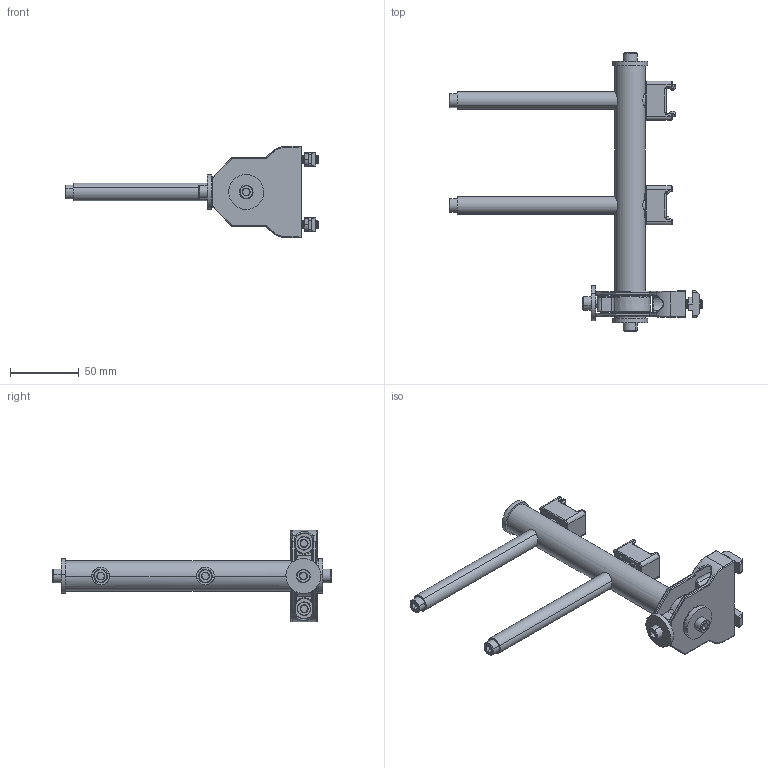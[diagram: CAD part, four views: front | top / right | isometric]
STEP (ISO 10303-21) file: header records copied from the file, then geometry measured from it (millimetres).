
FILE_DESCRIPTION((''),'2;1');
FILE_NAME('206186-03_ASM','2016-08-29T',('adam.dellomodarme'),(''),'PRO/ENGINEER BY PARAMETRIC TECHNOLOGY CORPORATION, 2012420','PRO/ENGINEER BY PARAMETRIC TECHNOLOGY CORPORATION, 2012420','');
FILE_SCHEMA(('CONFIG_CONTROL_DESIGN'));
Length unit declared in the file: inch
Products named in the file (18): 911-710_911-710_1; 990601M_1; 206692_1; 807-920_1; 206685_1; 206397_206397_1; 9206XXM_920616M_1; 807-2859_91760A321_1; 206189-HH_206189-03_1; 206381_206381_1; 206380_1; 9206XXM_920675M_1; 206383_206383_1; 9206XXM_9206150M_1; 206382_206382_DRAFTS_1; ASM0001_ASM_1_ASM; 206186-03_ASM_1_ASM; 206186-03_ASM
Assembly tree (30 placements, depth 4):
  206186-03_ASM
    206186-03_ASM_1_ASM
      ASM0001_ASM_1_ASM
        911-710_911-710_1  x3
        990601M_1  x2
        206692_1  x2
        807-920_1  x3
        206685_1  x2
        206397_206397_1  x2
        9206XXM_920616M_1  x2
        807-2859_91760A321_1  x2
        206189-HH_206189-03_1
        206381_206381_1
        206380_1
        9206XXM_920675M_1
        206383_206383_1  x2
        9206XXM_9206150M_1  x2
        206382_206382_DRAFTS_1  x2
Bounding box: 184.72 x 202.32 x 66.8 mm (x, y, z)
Volume: 114655.7 mm3; surface area: 97360.6 mm2
Topology: 28 solids, 28 shells, 1404 faces, 3476 edges, 2072 vertices
Faces by surface type: cylinder 543, plane 323, cone 198, bspline 190, torus 114, sphere 32, extrusion 4
Entity records: 41984 total; most frequent: CARTESIAN_POINT 22853, ORIENTED_EDGE 4120, DIRECTION 3617, EDGE_CURVE 2060, AXIS2_PLACEMENT_3D 1429, VERTEX_POINT 1243, EDGE_LOOP 883, FACE_OUTER_BOUND 844
